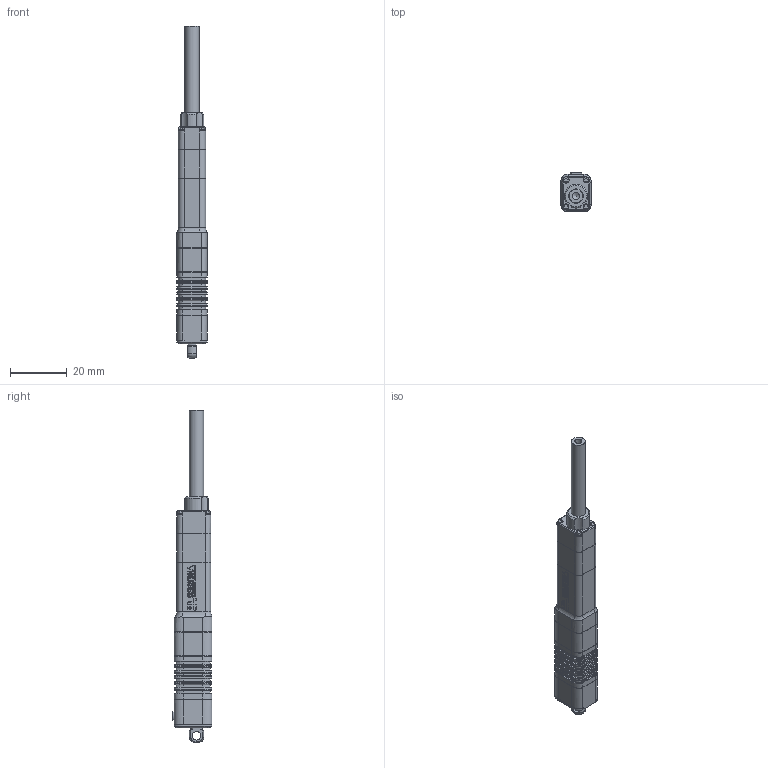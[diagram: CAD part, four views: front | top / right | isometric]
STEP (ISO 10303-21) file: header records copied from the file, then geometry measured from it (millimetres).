
FILE_DESCRIPTION (( 'STEP AP203' ), '1' );
FILE_NAME ('LA30-0x3D-1201.STEP', '2023-12-01T08:49:46', ( '' ), ( '' ), '' );
FILE_SCHEMA (( 'CONFIG_CONTROL_DESIGN' ));
Length unit declared in the file: millimetre
Products named in the file (4): AS820130-015芢裝-俋楷; ACBO-S30; 錨璃30^LA30-0x3D; LA30-0x3D-1201
Assembly tree (3 placements, depth 2):
  LA30-0x3D-1201
    ACBO-S30
    AS820130-015芢裝-俋楷
    錨璃30^LA30-0x3D
Bounding box: 10.8 x 14 x 116.7 mm (x, y, z)
Volume: 9603.5 mm3; surface area: 5282.3 mm2
Topology: 3 solids, 3 shells, 1604 faces, 4160 edges, 2678 vertices
Faces by surface type: plane 878, bspline 568, cylinder 108, cone 37, torus 13
Full cylindrical faces by diameter (mm): 1.7 x2, 2 x2, 2.17 x1, 2.4 x1, 2.5 x1, 3 x1, 4 x2, 5 x2
Entity records: 63118 total; most frequent: CARTESIAN_POINT 27632, ORIENTED_EDGE 8264, DIRECTION 5304, EDGE_CURVE 4132, VERTEX_POINT 2667, VECTOR 2642, LINE 2642, EDGE_LOOP 1739
